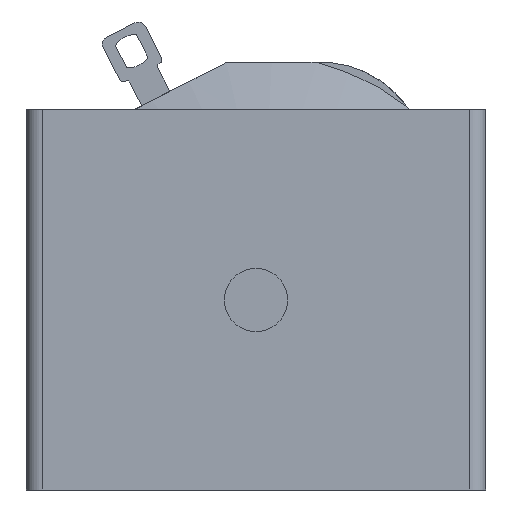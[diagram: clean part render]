
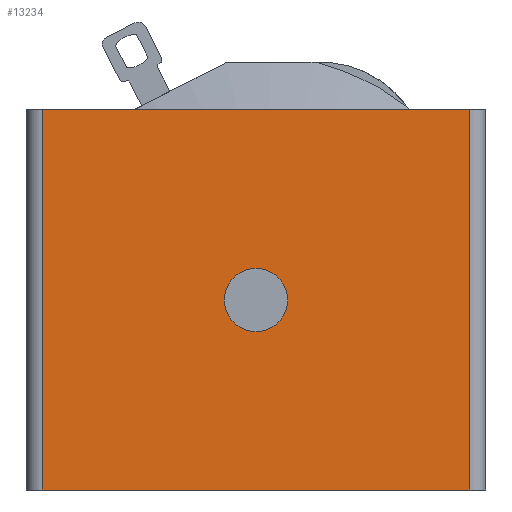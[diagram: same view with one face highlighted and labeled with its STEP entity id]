
A CAD part, front view. The second image highlights one B-rep face of the part: STEP entity #13234.
In plain terms, the highlighted planar face has unit normal (0, -1, 0).
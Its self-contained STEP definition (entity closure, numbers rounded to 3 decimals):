
#28 = CARTESIAN_POINT ( 'NONE',  ( -14.5, 0., 24. ) ) ;
#122 = LINE ( 'NONE', #13263, #15523 ) ;
#459 = CARTESIAN_POINT ( 'NONE',  ( 0., 0., 10. ) ) ;
#517 = EDGE_CURVE ( 'NONE', #11569, #3058, #6985, .T. ) ;
#532 = CARTESIAN_POINT ( 'NONE',  ( -13.5, 0., 24. ) ) ;
#634 = CARTESIAN_POINT ( 'NONE',  ( 0., 0., 12. ) ) ;
#1163 = AXIS2_PLACEMENT_3D ( 'NONE', #634, #11352, #6514 ) ;
#1259 = CIRCLE ( 'NONE', #10153, 2. ) ;
#1390 = VECTOR ( 'NONE', #2704, 1000. ) ;
#1453 = PLANE ( 'NONE',  #15673 ) ;
#1788 = VERTEX_POINT ( 'NONE', #8772 ) ;
#2367 = LINE ( 'NONE', #4771, #13467 ) ;
#2395 = EDGE_CURVE ( 'NONE', #3058, #9859, #122, .T. ) ;
#2562 = DIRECTION ( 'NONE',  ( 0., 1., 0. ) ) ;
#2629 = ORIENTED_EDGE ( 'NONE', *, *, #2395, .T. ) ;
#2704 = DIRECTION ( 'NONE',  ( 1., 0., 0. ) ) ;
#3051 = CARTESIAN_POINT ( 'NONE',  ( 0., 0., 12. ) ) ;
#3058 = VERTEX_POINT ( 'NONE', #13313 ) ;
#3345 = VERTEX_POINT ( 'NONE', #459 ) ;
#3500 = EDGE_CURVE ( 'NONE', #11569, #6695, #7657, .T. ) ;
#3763 = FACE_BOUND ( 'NONE', #14207, .T. ) ;
#4731 = DIRECTION ( 'NONE',  ( 0., 0., -1. ) ) ;
#4771 = CARTESIAN_POINT ( 'NONE',  ( 13.5, 0., 24. ) ) ;
#5033 = VECTOR ( 'NONE', #4731, 1000. ) ;
#5476 = CIRCLE ( 'NONE', #1163, 2. ) ;
#5779 = CARTESIAN_POINT ( 'NONE',  ( -13.5, 0., 24. ) ) ;
#6514 = DIRECTION ( 'NONE',  ( 0., 0., 1. ) ) ;
#6525 = CARTESIAN_POINT ( 'NONE',  ( -14.5, 0., 24. ) ) ;
#6695 = VERTEX_POINT ( 'NONE', #10085 ) ;
#6985 = LINE ( 'NONE', #5779, #5033 ) ;
#7401 = EDGE_CURVE ( 'NONE', #1788, #3345, #5476, .T. ) ;
#7657 = LINE ( 'NONE', #6525, #1390 ) ;
#8772 = CARTESIAN_POINT ( 'NONE',  ( 0., 0., 14. ) ) ;
#8805 = ORIENTED_EDGE ( 'NONE', *, *, #12965, .F. ) ;
#9761 = DIRECTION ( 'NONE',  ( 1., 0., 0. ) ) ;
#9859 = VERTEX_POINT ( 'NONE', #12952 ) ;
#10085 = CARTESIAN_POINT ( 'NONE',  ( 13.5, 0., 24. ) ) ;
#10141 = DIRECTION ( 'NONE',  ( 0., 0., 1. ) ) ;
#10153 = AXIS2_PLACEMENT_3D ( 'NONE', #3051, #11558, #10141 ) ;
#10721 = EDGE_CURVE ( 'NONE', #9859, #6695, #2367, .T. ) ;
#10798 = ORIENTED_EDGE ( 'NONE', *, *, #517, .T. ) ;
#11064 = ORIENTED_EDGE ( 'NONE', *, *, #10721, .T. ) ;
#11352 = DIRECTION ( 'NONE',  ( 0., -1., 0. ) ) ;
#11558 = DIRECTION ( 'NONE',  ( 0., -1., 0. ) ) ;
#11569 = VERTEX_POINT ( 'NONE', #532 ) ;
#12952 = CARTESIAN_POINT ( 'NONE',  ( 13.5, 0., 0. ) ) ;
#12965 = EDGE_CURVE ( 'NONE', #3345, #1788, #1259, .T. ) ;
#12984 = ORIENTED_EDGE ( 'NONE', *, *, #3500, .F. ) ;
#13204 = DIRECTION ( 'NONE',  ( 0., 0., 1. ) ) ;
#13234 = ADVANCED_FACE ( 'NONE', ( #3763, #13541 ), #1453, .F. ) ;
#13263 = CARTESIAN_POINT ( 'NONE',  ( -14.5, 0., 0. ) ) ;
#13313 = CARTESIAN_POINT ( 'NONE',  ( -13.5, 0., 0. ) ) ;
#13388 = DIRECTION ( 'NONE',  ( 0., 0., 1. ) ) ;
#13467 = VECTOR ( 'NONE', #13204, 1000. ) ;
#13541 = FACE_OUTER_BOUND ( 'NONE', #13813, .T. ) ;
#13813 = EDGE_LOOP ( 'NONE', ( #2629, #11064, #12984, #10798 ) ) ;
#14207 = EDGE_LOOP ( 'NONE', ( #8805, #14896 ) ) ;
#14896 = ORIENTED_EDGE ( 'NONE', *, *, #7401, .F. ) ;
#15523 = VECTOR ( 'NONE', #9761, 1000. ) ;
#15673 = AXIS2_PLACEMENT_3D ( 'NONE', #28, #2562, #13388 ) ;
